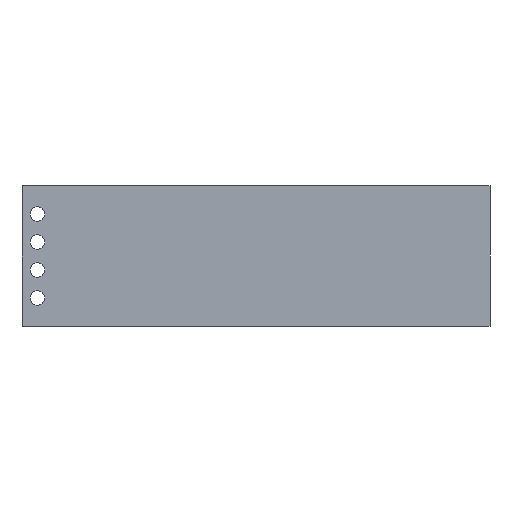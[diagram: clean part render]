
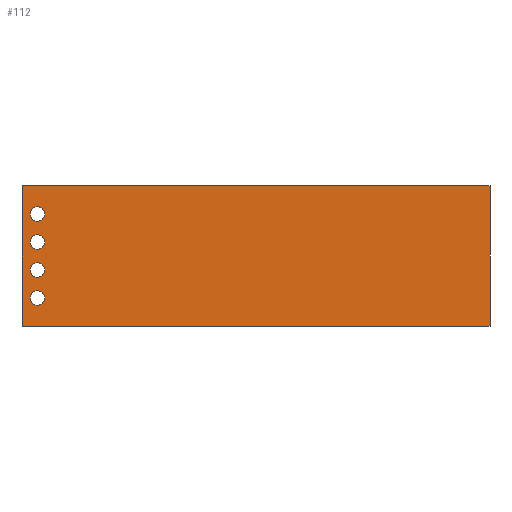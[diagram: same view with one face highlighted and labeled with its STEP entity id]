
A CAD part, front view. The second image highlights one B-rep face of the part: STEP entity #112.
In plain terms, the highlighted planar face has unit normal (0, -1, 0).
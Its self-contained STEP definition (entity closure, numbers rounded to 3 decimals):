
#31 = CARTESIAN_POINT ( 'NONE',  ( 185.049, -1.134, -124.693 ) ) ;
#105 = DIRECTION ( 'NONE',  ( 1., 0., 0. ) ) ;
#110 = DIRECTION ( 'NONE',  ( 0., 0., -1. ) ) ;
#112 = ADVANCED_FACE ( 'NONE', ( #2574, #2886, #2341, #1398, #2629 ), #679, .T. ) ;
#121 = DIRECTION ( 'NONE',  ( 0., 0., -1. ) ) ;
#146 = DIRECTION ( 'NONE',  ( 0., -1., 0. ) ) ;
#219 = DIRECTION ( 'NONE',  ( 0., 0., -1. ) ) ;
#235 = CIRCLE ( 'NONE', #754, 1.4 ) ;
#247 = CARTESIAN_POINT ( 'NONE',  ( 98.049, -1.134, -5.4 ) ) ;
#277 = LINE ( 'NONE', #31, #800 ) ;
#316 = ORIENTED_EDGE ( 'NONE', *, *, #1392, .F. ) ;
#361 = CARTESIAN_POINT ( 'NONE',  ( 98.049, -1.134, -5.4 ) ) ;
#405 = CARTESIAN_POINT ( 'NONE',  ( 98.049, -1.134, -21.6 ) ) ;
#436 = DIRECTION ( 'NONE',  ( 0., 0., -1. ) ) ;
#446 = CARTESIAN_POINT ( 'NONE',  ( 95.099, -1.134, 0. ) ) ;
#452 = VERTEX_POINT ( 'NONE', #446 ) ;
#577 = LINE ( 'NONE', #1815, #2828 ) ;
#614 = DIRECTION ( 'NONE',  ( 0., -1., 0. ) ) ;
#615 = EDGE_LOOP ( 'NONE', ( #1819, #3154 ) ) ;
#661 = CIRCLE ( 'NONE', #1740, 1.4 ) ;
#678 = CIRCLE ( 'NONE', #1295, 1.4 ) ;
#679 = PLANE ( 'NONE',  #1696 ) ;
#754 = AXIS2_PLACEMENT_3D ( 'NONE', #1877, #2138, #3098 ) ;
#786 = CARTESIAN_POINT ( 'NONE',  ( 0., -1.134, -27. ) ) ;
#800 = VECTOR ( 'NONE', #2255, 1000. ) ;
#805 = VECTOR ( 'NONE', #1203, 1000. ) ;
#811 = AXIS2_PLACEMENT_3D ( 'NONE', #1755, #971, #2443 ) ;
#816 = CARTESIAN_POINT ( 'NONE',  ( 185.049, -1.134, -27. ) ) ;
#830 = VERTEX_POINT ( 'NONE', #2937 ) ;
#845 = ORIENTED_EDGE ( 'NONE', *, *, #1430, .F. ) ;
#846 = ORIENTED_EDGE ( 'NONE', *, *, #2795, .T. ) ;
#945 = EDGE_LOOP ( 'NONE', ( #2858, #2531 ) ) ;
#971 = DIRECTION ( 'NONE',  ( 0., -1., 0. ) ) ;
#977 = VERTEX_POINT ( 'NONE', #816 ) ;
#1070 = EDGE_CURVE ( 'NONE', #830, #2038, #2701, .T. ) ;
#1079 = VERTEX_POINT ( 'NONE', #1672 ) ;
#1115 = EDGE_CURVE ( 'NONE', #2038, #830, #235, .T. ) ;
#1149 = VERTEX_POINT ( 'NONE', #2903 ) ;
#1165 = DIRECTION ( 'NONE',  ( 1., 0., 0. ) ) ;
#1174 = CARTESIAN_POINT ( 'NONE',  ( 0., -1.134, -124.693 ) ) ;
#1203 = DIRECTION ( 'NONE',  ( 0., 0., -1. ) ) ;
#1225 = AXIS2_PLACEMENT_3D ( 'NONE', #405, #614, #436 ) ;
#1291 = ORIENTED_EDGE ( 'NONE', *, *, #2980, .F. ) ;
#1295 = AXIS2_PLACEMENT_3D ( 'NONE', #2337, #2829, #121 ) ;
#1325 = AXIS2_PLACEMENT_3D ( 'NONE', #247, #1469, #219 ) ;
#1367 = VERTEX_POINT ( 'NONE', #1628 ) ;
#1392 = EDGE_CURVE ( 'NONE', #1367, #2316, #2499, .T. ) ;
#1398 = FACE_BOUND ( 'NONE', #1544, .T. ) ;
#1419 = EDGE_LOOP ( 'NONE', ( #3112, #845 ) ) ;
#1430 = EDGE_CURVE ( 'NONE', #2541, #1946, #678, .T. ) ;
#1441 = ORIENTED_EDGE ( 'NONE', *, *, #2961, .T. ) ;
#1460 = AXIS2_PLACEMENT_3D ( 'NONE', #361, #2370, #2794 ) ;
#1466 = CARTESIAN_POINT ( 'NONE',  ( 98.049, -1.134, -6.8 ) ) ;
#1469 = DIRECTION ( 'NONE',  ( 0., -1., 0. ) ) ;
#1486 = LINE ( 'NONE', #2214, #805 ) ;
#1490 = AXIS2_PLACEMENT_3D ( 'NONE', #2101, #1855, #2832 ) ;
#1544 = EDGE_LOOP ( 'NONE', ( #316, #2615 ) ) ;
#1625 = VERTEX_POINT ( 'NONE', #2346 ) ;
#1628 = CARTESIAN_POINT ( 'NONE',  ( 98.049, -1.134, -4. ) ) ;
#1672 = CARTESIAN_POINT ( 'NONE',  ( 185.049, -1.134, 0. ) ) ;
#1696 = AXIS2_PLACEMENT_3D ( 'NONE', #1174, #2102, #2834 ) ;
#1740 = AXIS2_PLACEMENT_3D ( 'NONE', #2356, #146, #110 ) ;
#1755 = CARTESIAN_POINT ( 'NONE',  ( 98.049, -1.134, -10.8 ) ) ;
#1789 = EDGE_CURVE ( 'NONE', #1790, #1149, #661, .T. ) ;
#1790 = VERTEX_POINT ( 'NONE', #2628 ) ;
#1795 = ORIENTED_EDGE ( 'NONE', *, *, #2048, .T. ) ;
#1815 = CARTESIAN_POINT ( 'NONE',  ( 0., -1.134, 0. ) ) ;
#1819 = ORIENTED_EDGE ( 'NONE', *, *, #1789, .F. ) ;
#1831 = EDGE_CURVE ( 'NONE', #1946, #2541, #2869, .T. ) ;
#1855 = DIRECTION ( 'NONE',  ( 0., -1., 0. ) ) ;
#1877 = CARTESIAN_POINT ( 'NONE',  ( 98.049, -1.134, -21.6 ) ) ;
#1894 = EDGE_LOOP ( 'NONE', ( #1291, #846, #1441, #1795 ) ) ;
#1946 = VERTEX_POINT ( 'NONE', #3132 ) ;
#2038 = VERTEX_POINT ( 'NONE', #2284 ) ;
#2048 = EDGE_CURVE ( 'NONE', #977, #1079, #277, .T. ) ;
#2101 = CARTESIAN_POINT ( 'NONE',  ( 98.049, -1.134, -16.2 ) ) ;
#2102 = DIRECTION ( 'NONE',  ( 0., -1., 0. ) ) ;
#2138 = DIRECTION ( 'NONE',  ( 0., -1., 0. ) ) ;
#2204 = CIRCLE ( 'NONE', #811, 1.4 ) ;
#2214 = CARTESIAN_POINT ( 'NONE',  ( 95.099, -1.134, 12. ) ) ;
#2255 = DIRECTION ( 'NONE',  ( 0., 0., 1. ) ) ;
#2267 = VECTOR ( 'NONE', #105, 1000. ) ;
#2284 = CARTESIAN_POINT ( 'NONE',  ( 98.049, -1.134, -23. ) ) ;
#2302 = CIRCLE ( 'NONE', #1325, 1.4 ) ;
#2316 = VERTEX_POINT ( 'NONE', #1466 ) ;
#2337 = CARTESIAN_POINT ( 'NONE',  ( 98.049, -1.134, -16.2 ) ) ;
#2341 = FACE_BOUND ( 'NONE', #615, .T. ) ;
#2346 = CARTESIAN_POINT ( 'NONE',  ( 95.099, -1.134, -27. ) ) ;
#2356 = CARTESIAN_POINT ( 'NONE',  ( 98.049, -1.134, -10.8 ) ) ;
#2370 = DIRECTION ( 'NONE',  ( 0., -1., 0. ) ) ;
#2443 = DIRECTION ( 'NONE',  ( 0., 0., -1. ) ) ;
#2480 = CARTESIAN_POINT ( 'NONE',  ( 98.049, -1.134, -17.6 ) ) ;
#2499 = CIRCLE ( 'NONE', #1460, 1.4 ) ;
#2531 = ORIENTED_EDGE ( 'NONE', *, *, #1115, .F. ) ;
#2541 = VERTEX_POINT ( 'NONE', #2480 ) ;
#2574 = FACE_BOUND ( 'NONE', #945, .T. ) ;
#2615 = ORIENTED_EDGE ( 'NONE', *, *, #2853, .F. ) ;
#2628 = CARTESIAN_POINT ( 'NONE',  ( 98.049, -1.134, -9.4 ) ) ;
#2629 = FACE_OUTER_BOUND ( 'NONE', #1894, .T. ) ;
#2701 = CIRCLE ( 'NONE', #1225, 1.4 ) ;
#2759 = LINE ( 'NONE', #786, #2267 ) ;
#2794 = DIRECTION ( 'NONE',  ( 0., 0., -1. ) ) ;
#2795 = EDGE_CURVE ( 'NONE', #452, #1625, #1486, .T. ) ;
#2828 = VECTOR ( 'NONE', #1165, 1000. ) ;
#2829 = DIRECTION ( 'NONE',  ( 0., -1., 0. ) ) ;
#2832 = DIRECTION ( 'NONE',  ( 0., 0., -1. ) ) ;
#2834 = DIRECTION ( 'NONE',  ( 0., 0., -1. ) ) ;
#2853 = EDGE_CURVE ( 'NONE', #2316, #1367, #2302, .T. ) ;
#2858 = ORIENTED_EDGE ( 'NONE', *, *, #1070, .F. ) ;
#2869 = CIRCLE ( 'NONE', #1490, 1.4 ) ;
#2875 = EDGE_CURVE ( 'NONE', #1149, #1790, #2204, .T. ) ;
#2886 = FACE_BOUND ( 'NONE', #1419, .T. ) ;
#2903 = CARTESIAN_POINT ( 'NONE',  ( 98.049, -1.134, -12.2 ) ) ;
#2937 = CARTESIAN_POINT ( 'NONE',  ( 98.049, -1.134, -20.2 ) ) ;
#2961 = EDGE_CURVE ( 'NONE', #1625, #977, #2759, .T. ) ;
#2980 = EDGE_CURVE ( 'NONE', #452, #1079, #577, .T. ) ;
#3098 = DIRECTION ( 'NONE',  ( 0., 0., -1. ) ) ;
#3112 = ORIENTED_EDGE ( 'NONE', *, *, #1831, .F. ) ;
#3132 = CARTESIAN_POINT ( 'NONE',  ( 98.049, -1.134, -14.8 ) ) ;
#3154 = ORIENTED_EDGE ( 'NONE', *, *, #2875, .F. ) ;
